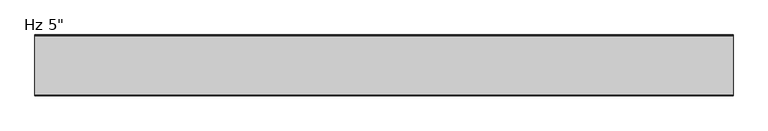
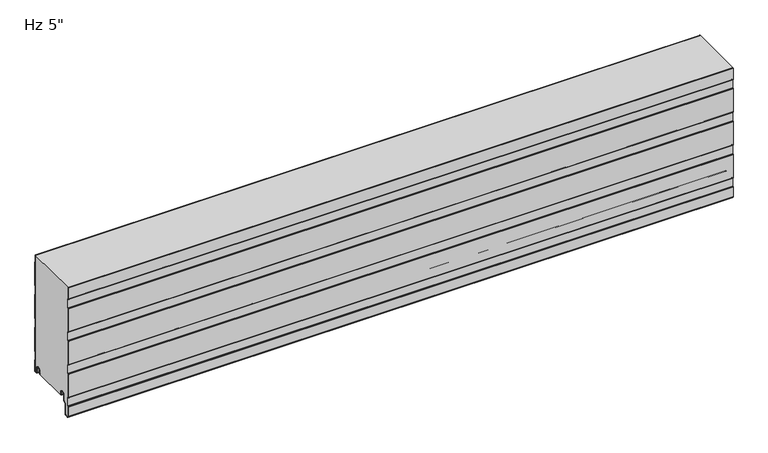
"""IFC4 building model written with IfcOpenShell, lengths in millimetres: plate geometry."""

from ifc_helpers import new_model, si_unit, point, frame, frame_2d, origin, place, context, project, spatial, polyline, circle_curve, trimmed, segment, composite_curve, outline, extrude, source, transform, mapped, element, save
from ifc_brep_helpers import plane_surface, cylinder_surface, revolved_surface, advanced_brep


def plate_239a66b7(model_context):
    return source(origin(), model_context, "Body", "SolidModel", [
        advanced_brep(
        [(-730.0, -17.0015159, 2.0313088), (-730.0, -18.0015191, 1.0313116), (-730.0, -19.0015105, 2.0313088), (-730.0, -19.0015105, 6.0315125), (-730.0, -18.0015159, 6.0315125), (-730.0, -18.0015159, 8.7237223), (-730.0, -14.7015202, 12.023718), (-730.0, -10.301529, 12.023718), (-730.0, -7.0015335, 8.7237225), (-730.0, -7.0015335, -1.6962564), (-730.0, -5.2315393, -3.4662506), (-730.0, -0.9999916, -3.4662506), (-730.0, -0.9999916, 21.034026), (-730.0, -2.2002307, 22.4196686), (-730.0, -2.2002307, 41.7948349), (-730.0, -1.0, 43.1804679), (-730.0, -1.0, 97.2338833), (-730.0, -2.2002307, 98.6195162), (-730.0, -2.2002307, 117.9946825), (-730.0, -1.0, 119.3803155), (-730.0, -1.0, 173.4337309), (-730.0, -2.2002307, 174.8193638), (-730.0, -2.2002307, 194.1945301), (-730.0, -1.0, 195.5801631), (-730.0, -1.0, 249.6335785), (-730.0, -2.2002307, 251.0192114), (-730.0, -2.2002307, 266.4), (-730.0, -1.2002307, 266.4), (-730.0, -1.2002307, 251.3920919), (-730.0, -0.3417885, 250.4010442), (-730.0, 0.0, 249.4844273), (-730.0, 0.0, 195.7293142), (-730.0, -0.3417885, 194.8126973), (-730.0, -1.2002307, 193.8216497), (-730.0, -1.2002307, 175.1922443), (-730.0, -0.3417885, 174.2011966), (-730.0, 0.0, 173.2845797), (-730.0, 0.0, 119.5294666), (-730.0, -0.3417885, 118.6128497), (-730.0, -1.2002307, 117.6218021), (-730.0, -1.2002307, 98.9923967), (-730.0, -0.3417885, 98.001349), (-730.0, 0.0, 97.0847321), (-730.0, 0.0, 43.329619), (-730.0, -0.3417885, 42.4130021), (-730.0, -1.2002307, 41.4219545), (-730.0, -1.2002307, 22.7925491), (-730.0, -0.3417885, 21.8015014), (-730.0, 0.0, 20.8847931), (-730.0, 8.4e-06, -3.0662545), (-730.0, -1.3999878, -4.4662506), (-730.0, -5.2315393, -4.4662506), (-730.0, -8.0015335, -1.6962564), (-730.0, -8.0015335, 8.7237225), (-730.0, -10.301529, 11.023718), (-730.0, -14.7015202, 11.023718), (-730.0, -17.0015159, 8.7237223), (730.0, -17.0015159, 2.0313088), (730.0, -17.0015159, 8.7237223), (730.0, -14.7015202, 11.023718), (730.0, -10.301529, 11.023718), (730.0, -8.0015335, 8.7237225), (730.0, -8.0015335, -1.6962564), (730.0, -5.2315393, -4.4662506), (730.0, -1.3999878, -4.4662506), (730.0, 8.4e-06, -3.0662545), (730.0, 8.4e-06, 20.8848845), (730.0, -0.3417885, 21.8015014), (730.0, -1.2002307, 22.7925491), (730.0, -1.2002307, 41.4219545), (730.0, -0.3417885, 42.4130021), (730.0, 0.0, 43.329619), (730.0, 0.0, 97.0847321), (730.0, -0.3417885, 98.001349), (730.0, -1.2002307, 98.9923967), (730.0, -1.2002307, 117.6218021), (730.0, -0.3417885, 118.6128497), (730.0, 0.0, 119.5294666), (730.0, 0.0, 173.2845797), (730.0, -0.3417885, 174.2011966), (730.0, -1.2002307, 175.1922443), (730.0, -1.2002307, 193.8216497), (730.0, -0.3417885, 194.8126973), (730.0, 0.0, 195.7293142), (730.0, 0.0, 249.4844273), (730.0, -0.3417885, 250.4010442), (730.0, -1.2002307, 251.3920919), (730.0, -1.2002307, 266.4), (730.0, -2.2002307, 266.4), (730.0, -2.2002307, 251.0192114), (730.0, -1.0, 249.6335785), (730.0, -1.0, 195.5801631), (730.0, -2.2002307, 194.1945301), (730.0, -2.2002307, 174.8193638), (730.0, -1.0, 173.4337309), (730.0, -1.0, 119.3803155), (730.0, -2.2002307, 117.9946825), (730.0, -2.2002307, 98.6195162), (730.0, -1.0, 97.2338833), (730.0, -1.0, 43.1804679), (730.0, -2.2002307, 41.7948349), (730.0, -2.2002307, 22.4196686), (730.0, -0.9999916, 21.034026), (730.0, -0.9999916, -3.4662506), (730.0, -5.2315393, -3.4662506), (730.0, -7.0015335, -1.6962564), (730.0, -7.0015335, 8.7237225), (730.0, -10.301529, 12.023718), (730.0, -14.7015202, 12.023718), (730.0, -18.0015159, 8.7237223), (730.0, -18.0015159, 6.0315125), (730.0, -19.0015105, 6.0315125), (730.0, -19.0015105, 2.0313088), (730.0, -18.0015192, 1.0313116)],
        [
            (0, 1, circle_curve(frame((-730.0, -18.0015132, 2.0313088), z_axis=(-1.0, 0.0, 0.0), x_axis=(0.0, 0.0, 1.0)), 0.9999973)),
            (1, 2, circle_curve(frame((-730.0, -18.0015133, 2.0313088), z_axis=(-1.0, 0.0, 0.0), x_axis=(0.0, 0.0, 1.0)), 0.9999972)),
            (2, 3),
            (3, 4),
            (4, 5),
            (5, 6, circle_curve(frame((-730.0, -14.7015202, 8.7237223), z_axis=(-1.0, 0.0, 0.0), x_axis=(0.0, 0.0, 1.0)), 3.2999957)),
            (6, 7),
            (7, 8, circle_curve(frame((-730.0, -10.301529, 8.7237225), z_axis=(-1.0, 0.0, 0.0), x_axis=(0.0, 0.0, 1.0)), 3.2999955)),
            (8, 9),
            (9, 10, circle_curve(frame((-730.0, -5.2315393, -1.6962564), z_axis=(1.0, 0.0, 0.0), x_axis=(0.0, 0.0, 1.0)), 1.7699942)),
            (10, 11),
            (11, 12),
            (12, 13),
            (13, 14),
            (14, 15),
            (15, 16),
            (16, 17),
            (17, 18),
            (18, 19),
            (19, 20),
            (20, 21),
            (21, 22),
            (22, 23),
            (23, 24),
            (24, 25),
            (25, 26),
            (26, 27),
            (27, 28),
            (28, 29),
            (29, 30, circle_curve(frame((-730.0, -1.3999972, 249.4844273), z_axis=(-1.0, 0.0, 0.0), x_axis=(0.0, 0.0, 1.0)), 1.3999972)),
            (30, 31),
            (31, 32, circle_curve(frame((-730.0, -1.3999972, 195.7293142), z_axis=(-1.0, 0.0, 0.0), x_axis=(0.0, 0.0, 1.0)), 1.3999972)),
            (32, 33),
            (33, 34),
            (34, 35),
            (35, 36, circle_curve(frame((-730.0, -1.3999972, 173.2845797), z_axis=(-1.0, 0.0, 0.0), x_axis=(0.0, 0.0, 1.0)), 1.3999972)),
            (36, 37),
            (37, 38, circle_curve(frame((-730.0, -1.3999972, 119.5294666), z_axis=(-1.0, 0.0, 0.0), x_axis=(0.0, 0.0, 1.0)), 1.3999972)),
            (38, 39),
            (39, 40),
            (40, 41),
            (41, 42, circle_curve(frame((-730.0, -1.3999972, 97.0847321), z_axis=(-1.0, 0.0, 0.0), x_axis=(0.0, 0.0, 1.0)), 1.3999972)),
            (42, 43),
            (43, 44, circle_curve(frame((-730.0, -1.3999972, 43.329619), z_axis=(-1.0, 0.0, 0.0), x_axis=(0.0, 0.0, 1.0)), 1.3999972)),
            (44, 45),
            (45, 46),
            (46, 47),
            (47, 48, circle_curve(frame((-730.0, -1.3999972, 20.8848845), z_axis=(-1.0, 0.0, 0.0), x_axis=(0.0, 0.0, 1.0)), 1.3999972)),
            (48, 49),
            (49, 50, circle_curve(frame((-730.0, -1.3999878, -3.0662545), z_axis=(-1.0, 0.0, 0.0), x_axis=(0.0, 0.0, 1.0)), 1.3999962)),
            (50, 51),
            (51, 52, circle_curve(frame((-730.0, -5.2315393, -1.6962564), z_axis=(-1.0, 0.0, 0.0), x_axis=(0.0, 0.0, 1.0)), 2.7699942)),
            (52, 53),
            (53, 54, circle_curve(frame((-730.0, -10.301529, 8.7237225), z_axis=(1.0, 0.0, 0.0), x_axis=(0.0, 0.0, 1.0)), 2.2999955)),
            (54, 55),
            (55, 56, circle_curve(frame((-730.0, -14.7015202, 8.7237223), z_axis=(1.0, 0.0, 0.0), x_axis=(0.0, 0.0, 1.0)), 2.2999957)),
            (56, 0),
            (57, 58),
            (58, 59, circle_curve(frame((730.0, -14.7015202, 8.7237223), z_axis=(-1.0, 0.0, 0.0), x_axis=(0.0, 0.0, 1.0)), 2.2999957)),
            (59, 60),
            (60, 61, circle_curve(frame((730.0, -10.301529, 8.7237225), z_axis=(-1.0, 0.0, 0.0), x_axis=(0.0, 0.0, 1.0)), 2.2999955)),
            (61, 62),
            (62, 63, circle_curve(frame((730.0, -5.2315393, -1.6962564), z_axis=(1.0, 0.0, 0.0), x_axis=(0.0, 0.0, 1.0)), 2.7699942)),
            (63, 64),
            (64, 65, circle_curve(frame((730.0, -1.3999878, -3.0662545), z_axis=(1.0, 0.0, 0.0), x_axis=(0.0, 0.0, 1.0)), 1.3999962)),
            (65, 66),
            (66, 67, circle_curve(frame((730.0, -1.3999972, 20.8848845), z_axis=(1.0, 0.0, 0.0), x_axis=(0.0, 0.0, 1.0)), 1.3999972)),
            (67, 68),
            (68, 69),
            (69, 70),
            (70, 71, circle_curve(frame((730.0, -1.3999972, 43.329619), z_axis=(1.0, 0.0, 0.0), x_axis=(0.0, 0.0, 1.0)), 1.3999972)),
            (71, 72),
            (72, 73, circle_curve(frame((730.0, -1.3999972, 97.0847321), z_axis=(1.0, 0.0, 0.0), x_axis=(0.0, 0.0, 1.0)), 1.3999972)),
            (73, 74),
            (74, 75),
            (75, 76),
            (76, 77, circle_curve(frame((730.0, -1.3999972, 119.5294666), z_axis=(1.0, 0.0, 0.0), x_axis=(0.0, 0.0, 1.0)), 1.3999972)),
            (77, 78),
            (78, 79, circle_curve(frame((730.0, -1.3999972, 173.2845797), z_axis=(1.0, 0.0, 0.0), x_axis=(0.0, 0.0, 1.0)), 1.3999972)),
            (79, 80),
            (80, 81),
            (81, 82),
            (82, 83, circle_curve(frame((730.0, -1.3999972, 195.7293142), z_axis=(1.0, 0.0, 0.0), x_axis=(0.0, 0.0, 1.0)), 1.3999972)),
            (83, 84),
            (84, 85, circle_curve(frame((730.0, -1.3999972, 249.4844273), z_axis=(1.0, 0.0, 0.0), x_axis=(0.0, 0.0, 1.0)), 1.3999972)),
            (85, 86),
            (86, 87),
            (87, 88),
            (88, 89),
            (89, 90),
            (90, 91),
            (91, 92),
            (92, 93),
            (93, 94),
            (94, 95),
            (95, 96),
            (96, 97),
            (97, 98),
            (98, 99),
            (99, 100),
            (100, 101),
            (101, 102),
            (102, 103),
            (103, 104),
            (104, 105, circle_curve(frame((730.0, -5.2315393, -1.6962564), z_axis=(-1.0, 0.0, 0.0), x_axis=(0.0, 0.0, 1.0)), 1.7699942)),
            (105, 106),
            (106, 107, circle_curve(frame((730.0, -10.301529, 8.7237225), z_axis=(1.0, 0.0, 0.0), x_axis=(0.0, 0.0, 1.0)), 3.2999955)),
            (107, 108),
            (108, 109, circle_curve(frame((730.0, -14.7015202, 8.7237223), z_axis=(1.0, 0.0, 0.0), x_axis=(0.0, 0.0, 1.0)), 3.2999957)),
            (109, 110),
            (110, 111),
            (111, 112),
            (112, 113, circle_curve(frame((730.0, -18.0015133, 2.0313088), z_axis=(1.0, 0.0, 0.0), x_axis=(0.0, 0.0, 1.0)), 0.9999972)),
            (113, 57, circle_curve(frame((730.0, -18.0015132, 2.0313088), z_axis=(1.0, 0.0, 0.0), x_axis=(0.0, 0.0, 1.0)), 0.9999973)),
            (26, 88),
            (87, 27),
            (56, 58),
            (57, 0),
            (55, 59),
            (54, 60),
            (53, 61),
            (52, 62),
            (51, 63),
            (50, 64),
            (49, 65),
            (48, 66),
            (47, 67),
            (46, 68),
            (45, 69),
            (44, 70),
            (43, 71),
            (42, 72),
            (41, 73),
            (40, 74),
            (39, 75),
            (38, 76),
            (37, 77),
            (36, 78),
            (19, 95),
            (94, 20),
            (18, 96),
            (17, 97),
            (16, 98),
            (15, 99),
            (14, 100),
            (13, 101),
            (12, 102),
            (11, 103),
            (10, 104),
            (9, 105),
            (8, 106),
            (7, 107),
            (6, 108),
            (5, 109),
            (4, 110),
            (3, 111),
            (2, 112),
            (1, 113),
            (35, 79),
            (34, 80),
            (33, 81),
            (32, 82),
            (31, 83),
            (30, 84),
            (29, 85),
            (28, 86),
            (25, 89),
            (24, 90),
            (23, 91),
            (22, 92),
            (21, 93),
        ],
        [
            plane_surface(frame((-730.0, 0.0, 533.4), z_axis=(-1.0, 0.0, 0.0), x_axis=(0.0, 1.0, 0.0))),
            plane_surface(frame((730.0, 0.0, 533.4), z_axis=(1.0, 0.0, 0.0), x_axis=(0.0, 1.0, 0.0))),
            plane_surface(frame((730.0, 10.0, 266.4), z_axis=(0.0, 0.0, 1.0), x_axis=(-1.0, 0.0, 0.0))),
            plane_surface(frame((-730.0, -17.0015159, 2.0313088), z_axis=(0.0, 1.0, 0.0), x_axis=(1.0, 0.0, 0.0))),
            revolved_surface(polyline([(730.0, -14.7015202, 11.023718), (-730.0, -14.7015202, 11.023718)]), (-730.0, -14.7015202, 8.7237223), (1.0, 0.0, 0.0)),
            plane_surface(frame((-730.0, -14.7015202, 11.023718), z_axis=(0.0, 0.0, -1.0), x_axis=(1.0, 0.0, 0.0))),
            revolved_surface(polyline([(730.0, -10.301529, 11.023717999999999), (-730.0, -10.301529, 11.023717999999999)]), (-730.0, -10.301529, 8.7237225), (1.0, 0.0, 0.0)),
            plane_surface(frame((-730.0, -8.0015335, 8.7237225), z_axis=(0.0, -1.0, 0.0), x_axis=(1.0, 0.0, 0.0))),
            cylinder_surface(frame((-730.0, -5.2315393, -1.6962564), z_axis=(-1.0, 0.0, 0.0), x_axis=(0.0, 0.0, 1.0)), 2.7699942),
            plane_surface(frame((-730.0, -5.2315393, -4.4662506), z_axis=(0.0, 0.0, -1.0), x_axis=(1.0, 0.0, 0.0))),
            cylinder_surface(frame((-730.0, -1.3999878, -3.0662545), z_axis=(-1.0, 0.0, 0.0), x_axis=(0.0, 0.0, 1.0)), 1.3999962),
            plane_surface(frame((-730.0, 8.4e-06, -3.0662545), z_axis=(0.0, 1.0, 0.0), x_axis=(1.0, 0.0, 0.0))),
            cylinder_surface(frame((-730.0, -1.3999972, 20.8848845), z_axis=(-1.0, 0.0, 0.0), x_axis=(0.0, 0.0, 1.0)), 1.3999972),
            plane_surface(frame((-730.0, -0.3417885, 21.8015014), z_axis=(0.0, 0.755864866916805, 0.6547276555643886), x_axis=(1.0, 0.0, 0.0))),
            plane_surface(frame((-730.0, -1.2002307, 32.1072518), z_axis=(0.0, 1.0, 0.0), x_axis=(1.0, 0.0, 0.0))),
            plane_surface(frame((-730.0, -1.2002307, 41.4219545), z_axis=(0.0, 0.755864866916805, -0.6547276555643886), x_axis=(1.0, 0.0, 0.0))),
            cylinder_surface(frame((-730.0, -1.3999972, 43.329619), z_axis=(-1.0, 0.0, 0.0), x_axis=(0.0, 0.0, 1.0)), 1.3999972),
            plane_surface(frame((-730.0, 0.0, 43.329619), z_axis=(0.0, 1.0, 0.0), x_axis=(1.0, 0.0, 0.0))),
            cylinder_surface(frame((-730.0, -1.3999972, 97.0847321), z_axis=(-1.0, 0.0, 0.0), x_axis=(0.0, 0.0, 1.0)), 1.3999972),
            plane_surface(frame((-730.0, -0.3417885, 98.001349), z_axis=(0.0, 0.755864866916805, 0.6547276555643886), x_axis=(1.0, 0.0, 0.0))),
            plane_surface(frame((-730.0, -1.2002307, 108.3070994), z_axis=(0.0, 1.0, 0.0), x_axis=(1.0, 0.0, 0.0))),
            plane_surface(frame((-730.0, -1.2002307, 117.6218021), z_axis=(0.0, 0.755864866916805, -0.6547276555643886), x_axis=(1.0, 0.0, 0.0))),
            cylinder_surface(frame((-730.0, -1.3999972, 119.5294666), z_axis=(-1.0, 0.0, 0.0), x_axis=(0.0, 0.0, 1.0)), 1.3999972),
            plane_surface(frame((-730.0, 0.0, 119.5294666), z_axis=(0.0, 1.0, 0.0), x_axis=(1.0, 0.0, 0.0))),
            plane_surface(frame((-730.0, -1.0, 173.4337309), z_axis=(0.0, -1.0, 0.0), x_axis=(1.0, 0.0, 0.0))),
            plane_surface(frame((-730.0, -1.0, 119.3803155), z_axis=(0.0, -0.755864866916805, 0.6547276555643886), x_axis=(1.0, 0.0, 0.0))),
            plane_surface(frame((-730.0, -2.2002307, 117.9946825), z_axis=(0.0, -1.0, 0.0), x_axis=(1.0, 0.0, 0.0))),
            plane_surface(frame((-730.0, -2.2002307, 98.6195162), z_axis=(0.0, -0.755864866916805, -0.6547276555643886), x_axis=(1.0, 0.0, 0.0))),
            plane_surface(frame((-730.0, -1.0, 97.2338833), z_axis=(0.0, -1.0, 0.0), x_axis=(1.0, 0.0, 0.0))),
            plane_surface(frame((-730.0, -1.0, 43.1804679), z_axis=(0.0, -0.755864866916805, 0.6547276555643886), x_axis=(1.0, 0.0, 0.0))),
            plane_surface(frame((-730.0, -2.2002307, 41.7948349), z_axis=(0.0, -1.0, 0.0), x_axis=(1.0, 0.0, 0.0))),
            plane_surface(frame((-730.0, -2.2002307, 22.4196686), z_axis=(0.0, -0.755864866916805, -0.6547276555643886), x_axis=(1.0, 0.0, 0.0))),
            plane_surface(frame((-730.0, -0.9999916, 21.034026), z_axis=(0.0, -1.0, 0.0), x_axis=(1.0, 0.0, 0.0))),
            plane_surface(frame((-730.0, -0.9999916, -3.4662506), z_axis=(0.0, 0.0, 1.0), x_axis=(1.0, 0.0, 0.0))),
            revolved_surface(polyline([(730.0, -5.2315393, 0.07373779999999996), (-730.0, -5.2315393, 0.07373779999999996)]), (-730.0, -5.2315393, -1.6962564), (1.0, 0.0, 0.0)),
            plane_surface(frame((-730.0, -7.0015335, -1.6962564), z_axis=(0.0, 1.0, 0.0), x_axis=(1.0, 0.0, 0.0))),
            cylinder_surface(frame((-730.0, -10.301529, 8.7237225), z_axis=(-1.0, 0.0, 0.0), x_axis=(0.0, 0.0, 1.0)), 3.2999955),
            plane_surface(frame((-730.0, -10.301529, 12.023718), z_axis=(0.0, 0.0, 1.0), x_axis=(1.0, 0.0, 0.0))),
            cylinder_surface(frame((-730.0, -14.7015202, 8.7237223), z_axis=(-1.0, 0.0, 0.0), x_axis=(0.0, 0.0, 1.0)), 3.2999957),
            plane_surface(frame((-730.0, -18.0015159, 8.7237223), z_axis=(0.0, -1.0, 0.0), x_axis=(1.0, 0.0, 0.0))),
            plane_surface(frame((-730.0, -18.0015159, 6.0315125), z_axis=(0.0, 0.0, 1.0), x_axis=(1.0, 0.0, 0.0))),
            plane_surface(frame((-730.0, -19.0015105, 6.0315125), z_axis=(0.0, -1.0, 0.0), x_axis=(1.0, 0.0, 0.0))),
            cylinder_surface(frame((-730.0, -18.0015133, 2.0313088), z_axis=(-1.0, 0.0, 0.0), x_axis=(0.0, 0.0, 1.0)), 0.9999972),
            cylinder_surface(frame((-730.0, -18.0015132, 2.0313088), z_axis=(-1.0, 0.0, 0.0), x_axis=(0.0, 0.0, 1.0)), 0.9999973),
            cylinder_surface(frame((-730.0, -1.3999972, 173.2845797), z_axis=(-1.0, 0.0, 0.0), x_axis=(0.0, 0.0, 1.0)), 1.3999972),
            plane_surface(frame((-730.0, -0.3417885, 174.2011966), z_axis=(0.0, 0.755864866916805, 0.6547276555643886), x_axis=(1.0, 0.0, 0.0))),
            plane_surface(frame((-730.0, -1.2002307, 184.506947), z_axis=(0.0, 1.0, 0.0), x_axis=(1.0, 0.0, 0.0))),
            plane_surface(frame((-730.0, -1.2002307, 193.8216497), z_axis=(0.0, 0.755864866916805, -0.6547276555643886), x_axis=(1.0, 0.0, 0.0))),
            cylinder_surface(frame((-730.0, -1.3999972, 195.7293142), z_axis=(-1.0, 0.0, 0.0), x_axis=(0.0, 0.0, 1.0)), 1.3999972),
            plane_surface(frame((-730.0, 0.0, 195.7293142), z_axis=(0.0, 1.0, 0.0), x_axis=(1.0, 0.0, 0.0))),
            cylinder_surface(frame((-730.0, -1.3999972, 249.4844273), z_axis=(-1.0, 0.0, 0.0), x_axis=(0.0, 0.0, 1.0)), 1.3999972),
            plane_surface(frame((-730.0, -0.3417885, 250.4010442), z_axis=(0.0, 0.755864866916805, 0.6547276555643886), x_axis=(1.0, 0.0, 0.0))),
            plane_surface(frame((-730.0, -1.2002307, 260.7067946), z_axis=(0.0, 1.0, 0.0), x_axis=(1.0, 0.0, 0.0))),
            plane_surface(frame((-730.0, -2.2002307, 270.3943777), z_axis=(0.0, -1.0, 0.0), x_axis=(1.0, 0.0, 0.0))),
            plane_surface(frame((-730.0, -2.2002307, 251.0192114), z_axis=(0.0, -0.755864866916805, -0.6547276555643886), x_axis=(1.0, 0.0, 0.0))),
            plane_surface(frame((-730.0, -1.0, 249.6335785), z_axis=(0.0, -1.0, 0.0), x_axis=(1.0, 0.0, 0.0))),
            plane_surface(frame((-730.0, -1.0, 195.5801631), z_axis=(0.0, -0.755864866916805, 0.6547276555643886), x_axis=(1.0, 0.0, 0.0))),
            plane_surface(frame((-730.0, -2.2002307, 194.1945301), z_axis=(0.0, -1.0, 0.0), x_axis=(1.0, 0.0, 0.0))),
            plane_surface(frame((-730.0, -2.2002307, 174.8193638), z_axis=(0.0, -0.755864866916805, -0.6547276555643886), x_axis=(1.0, 0.0, 0.0))),
        ],
        [
            (0, [[1, 2, 3, 4, 5, 6, 7, 8, 9, 10, 11, 12, 13, 14, 15, 16, 17, 18, 19, 20, 21, 22, 23, 24, 25, 26, 27, 28, 29, 30, 31, 32, 33, 34, 35, 36, 37, 38, 39, 40, 41, 42, 43, 44, 45, 46, 47, 48, 49, 50, 51, 52, 53, 54, 55, 56, 57]]),
            (1, [[58, 59, 60, 61, 62, 63, 64, 65, 66, 67, 68, 69, 70, 71, 72, 73, 74, 75, 76, 77, 78, 79, 80, 81, 82, 83, 84, 85, 86, 87, 88, 89, 90, 91, 92, 93, 94, 95, 96, 97, 98, 99, 100, 101, 102, 103, 104, 105, 106, 107, 108, 109, 110, 111, 112, 113, 114]]),
            (2, [[115, -88, 116, -27]]),
            (3, [[117, -58, 118, -57]]),
            (4, [[119, -59, -117, -56]]),
            (5, [[120, -60, -119, -55]]),
            (6, [[121, -61, -120, -54]]),
            (7, [[122, -62, -121, -53]]),
            (8, [[123, -63, -122, -52]]),
            (9, [[124, -64, -123, -51]]),
            (10, [[125, -65, -124, -50]]),
            (11, [[126, -66, -125, -49]]),
            (12, [[127, -67, -126, -48]]),
            (13, [[128, -68, -127, -47]]),
            (14, [[129, -69, -128, -46]]),
            (15, [[130, -70, -129, -45]]),
            (16, [[131, -71, -130, -44]]),
            (17, [[132, -72, -131, -43]]),
            (18, [[133, -73, -132, -42]]),
            (19, [[134, -74, -133, -41]]),
            (20, [[135, -75, -134, -40]]),
            (21, [[136, -76, -135, -39]]),
            (22, [[137, -77, -136, -38]]),
            (23, [[138, -78, -137, -37]]),
            (24, [[139, -95, 140, -20]]),
            (25, [[141, -96, -139, -19]]),
            (26, [[142, -97, -141, -18]]),
            (27, [[143, -98, -142, -17]]),
            (28, [[144, -99, -143, -16]]),
            (29, [[145, -100, -144, -15]]),
            (30, [[146, -101, -145, -14]]),
            (31, [[147, -102, -146, -13]]),
            (32, [[148, -103, -147, -12]]),
            (33, [[149, -104, -148, -11]]),
            (34, [[150, -105, -149, -10]]),
            (35, [[151, -106, -150, -9]]),
            (36, [[152, -107, -151, -8]]),
            (37, [[153, -108, -152, -7]]),
            (38, [[154, -109, -153, -6]]),
            (39, [[155, -110, -154, -5]]),
            (40, [[156, -111, -155, -4]]),
            (41, [[157, -112, -156, -3]]),
            (42, [[158, -113, -157, -2]]),
            (43, [[-118, -114, -158, -1]]),
            (44, [[159, -79, -138, -36]]),
            (45, [[160, -80, -159, -35]]),
            (46, [[161, -81, -160, -34]]),
            (47, [[162, -82, -161, -33]]),
            (48, [[163, -83, -162, -32]]),
            (49, [[164, -84, -163, -31]]),
            (50, [[165, -85, -164, -30]]),
            (51, [[166, -86, -165, -29]]),
            (52, [[-28, -116, -87, -166]]),
            (53, [[-89, -115, -26, 167]]),
            (54, [[168, -90, -167, -25]]),
            (55, [[169, -91, -168, -24]]),
            (56, [[170, -92, -169, -23]]),
            (57, [[171, -93, -170, -22]]),
            (58, [[-140, -94, -171, -21]]),
        ],
    ),
        extrude(outline(composite_curve([segment(trimmed(circle_curve(frame_2d((-125.6007733, -10.6415934)), 1.3998661), [point((-127.0006394, -10.6415934))], [point((-126.5333971, -9.5976403))], False, "CARTESIAN"), True, "CONTINUOUS"), segment(polyline([(-126.5333971, -9.5976403), (-125.8006709, -8.8649141), (-125.8006709, 10.0260713), (-126.5336365, 10.7590369)]), True, "CONTINUOUS"), segment(trimmed(circle_curve(frame_2d((-125.6009253, 11.8030877)), 1.3999972), [point((-126.5336365, 10.7590369))], [point((-127.0009016, 11.810741))], False, "CARTESIAN"), True, "CONTINUOUS"), segment(polyline([(-127.0009016, 11.810741), (-127.0009016, 65.5582542)]), True, "CONTINUOUS"), segment(trimmed(circle_curve(frame_2d((-125.6009044, 65.5582542)), 1.3999972), [point((-127.0009016, 65.5582542))], [point((-126.5336156, 66.602305))], False, "CARTESIAN"), True, "CONTINUOUS"), segment(polyline([(-126.5336156, 66.602305), (-125.8006709, 67.3352497), (-125.8006709, 86.2259189), (-126.5336365, 86.9588845)]), True, "CONTINUOUS"), segment(trimmed(circle_curve(frame_2d((-125.6009253, 88.0029353)), 1.3999972), [point((-126.5336365, 86.9588845))], [point((-127.0009016, 88.0105886))], False, "CARTESIAN"), True, "CONTINUOUS"), segment(polyline([(-127.0009016, 88.0105886), (-127.0009016, 141.7581018)]), True, "CONTINUOUS"), segment(trimmed(circle_curve(frame_2d((-125.6009044, 141.7581018)), 1.3999972), [point((-127.0009016, 141.7581018))], [point((-126.5336156, 142.8021526))], False, "CARTESIAN"), True, "CONTINUOUS"), segment(polyline([(-126.5336156, 142.8021526), (-125.8006709, 143.5350973), (-125.8006709, 162.4257665), (-126.5336365, 163.1587321)]), True, "CONTINUOUS"), segment(trimmed(circle_curve(frame_2d((-125.6009253, 164.2027829)), 1.3999972), [point((-126.5336365, 163.1587321))], [point((-127.0009016, 164.2104362))], False, "CARTESIAN"), True, "CONTINUOUS"), segment(polyline([(-127.0009016, 164.2104362), (-127.0009016, 217.9579494)]), True, "CONTINUOUS"), segment(trimmed(circle_curve(frame_2d((-125.6009044, 217.9579494)), 1.3999972), [point((-127.0009016, 217.9579494))], [point((-126.5336156, 219.0020002))], False, "CARTESIAN"), True, "CONTINUOUS"), segment(polyline([(-126.5336156, 219.0020002), (-125.8006709, 219.7349449), (-125.8006709, 238.6256141), (-126.5336365, 239.3585797)]), True, "CONTINUOUS"), segment(trimmed(circle_curve(frame_2d((-125.6009253, 240.4026305)), 1.3999972), [point((-126.5336365, 239.3585797))], [point((-127.0009016, 240.4102838))], False, "CARTESIAN"), True, "CONTINUOUS"), segment(polyline([(-127.0009016, 240.4102838), (-127.0009016, 266.4), (-126.0009016, 266.4), (-126.0009016, 240.2405326), (-124.8006709, 239.0403019), (-124.8006709, 219.3208894), (-126.0009016, 218.1206587), (-126.0009016, 164.0405269), (-124.8006709, 162.8402962), (-124.8006709, 143.1208837), (-126.0009016, 141.920653), (-126.0009016, 87.8405213), (-124.8006709, 86.6402905), (-124.8006709, 66.920878), (-126.0009016, 65.7206473), (-126.0009016, 11.6405156), (-124.8006709, 10.4402849), (-124.8006709, -9.2791277), (-126.0006394, -10.4790962), (-126.0006394, -32.4521176)]), True, "CONTINUOUS"), segment(trimmed(circle_curve(frame_2d((-123.4304001, -32.4521176)), 2.5702393), [point((-126.0006394, -32.4521176))], [point((-123.2063145, -35.0125699))], True, "CARTESIAN"), True, "CONTINUOUS"), segment(polyline([(-123.2063145, -35.0125699), (-118.2244936, -34.5765709)]), True, "CONTINUOUS"), segment(trimmed(circle_curve(frame_2d((-118.7058842, -31.9198392)), 2.6999926), [point((-118.2244936, -34.5765709))], [point((-116.0058916, -31.9198392))], True, "CARTESIAN"), True, "CONTINUOUS"), segment(polyline([(-116.0058916, -31.9198392), (-116.0058916, -9.8247096), (-110.5038205, -4.3226385)]), True, "CONTINUOUS"), segment(trimmed(circle_curve(frame_2d((-111.7058982, -3.1205608)), 1.6999946), [point((-110.5038205, -4.3226385))], [point((-110.0059036, -3.1205608))], True, "CARTESIAN"), True, "CONTINUOUS"), segment(polyline([(-110.0059036, -3.1205608), (-110.0059036, 8.6903283)]), True, "CONTINUOUS"), segment(trimmed(circle_curve(frame_2d((-106.6559083, 8.6903283)), 3.3499953), [point((-110.0059036, 8.6903283))], [point((-106.6559083, 12.0403236))], False, "CARTESIAN"), True, "CONTINUOUS"), segment(polyline([(-106.6559083, 12.0403236), (-102.2559171, 12.0403236)]), True, "CONTINUOUS"), segment(trimmed(circle_curve(frame_2d((-102.2559171, 8.6903283)), 3.3499953), [point((-102.2559171, 12.0403236))], [point((-98.9059218, 8.6903283))], False, "CARTESIAN"), True, "CONTINUOUS"), segment(polyline([(-98.9059218, 8.6903283), (-98.9059218, 5.9912173), (-97.5074429, 5.9912173), (-97.5074429, 2.2328239)]), True, "CONTINUOUS"), segment(trimmed(circle_curve(frame_2d((-98.7074396, 2.2313092)), 1.1999976), [point((-97.5074429, 2.2328239))], [point((-98.6769177, 1.0316999))], False, "CARTESIAN"), True, "CONTINUOUS"), segment(trimmed(circle_curve(frame_2d((-98.7074396, 2.2313092)), 1.1999976), [point((-98.6769177, 1.0316999))], [point((-99.9059218, 2.1710221))], False, "CARTESIAN"), True, "CONTINUOUS"), segment(polyline([(-99.9059218, 2.1710221), (-99.9059218, 8.6903283)]), True, "CONTINUOUS"), segment(trimmed(circle_curve(frame_2d((-102.2559171, 8.6903283)), 2.3499953), [point((-99.9059218, 8.6903283))], [point((-102.2559171, 11.0403236))], True, "CARTESIAN"), True, "CONTINUOUS"), segment(polyline([(-102.2559171, 11.0403236), (-106.6559083, 11.0403236)]), True, "CONTINUOUS"), segment(trimmed(circle_curve(frame_2d((-106.6559083, 8.6903283)), 2.3499953), [point((-106.6559083, 11.0403236))], [point((-109.0059036, 8.6903283))], True, "CARTESIAN"), True, "CONTINUOUS"), segment(polyline([(-109.0059036, 8.6903283), (-109.0059036, -3.1205608)]), True, "CONTINUOUS"), segment(trimmed(circle_curve(frame_2d((-111.7058982, -3.1205608)), 2.6999946), [point((-109.0059036, -3.1205608))], [point((-109.7967137, -5.0297453))], False, "CARTESIAN"), True, "CONTINUOUS"), segment(polyline([(-109.7967137, -5.0297453), (-114.6251312, -9.8581627)]), True, "CONTINUOUS"), segment(trimmed(circle_curve(frame_2d((-113.7058942, -10.7773997)), 1.2999974), [point((-114.6251312, -9.8581627))], [point((-115.0058916, -10.7773997))], True, "CARTESIAN"), True, "CONTINUOUS"), segment(polyline([(-115.0058916, -10.7773997), (-115.0058916, -31.9198392)]), True, "CONTINUOUS"), segment(trimmed(circle_curve(frame_2d((-118.7058842, -31.9198392)), 3.6999926), [point((-115.0058916, -31.9198392))], [point((-118.0950831, -35.5690675))], False, "CARTESIAN"), True, "CONTINUOUS"), segment(polyline([(-118.0950831, -35.5690675), (-123.1191297, -36.008762)]), True, "CONTINUOUS"), segment(trimmed(circle_curve(frame_2d((-123.4304001, -32.4521176)), 3.5702393), [point((-123.1191297, -36.008762))], [point((-127.0006394, -32.4521176))], False, "CARTESIAN"), True, "CONTINUOUS"), segment(polyline([(-127.0006394, -32.4521176), (-127.0006394, -10.6415934)]), True, "CONTINUOUS")], self_intersect=False)), frame((-730.0, 0.0, 0.0), z_axis=(1.0, 0.0, 0.0), x_axis=(0.0, 1.0, 0.0)), (0.0, 0.0, 1.0), 1460.0),
        extrude(outline(composite_curve([segment(trimmed(circle_curve(frame_2d((-98.7013969, 2.2313092)), 1.1999976), [point((-98.670875, 1.0316999))], [point((-97.5014003, 2.2328239))], True, "CARTESIAN"), True, "CONTINUOUS"), segment(polyline([(-97.5014003, 2.2328239), (-97.5014003, 5.9912173), (-98.8998791, 5.9912173), (-98.8998791, 8.6903283)]), True, "CONTINUOUS"), segment(trimmed(circle_curve(frame_2d((-102.2498744, 8.6903283)), 3.3499953), [point((-98.8998791, 8.6903283))], [point((-102.2498744, 12.0403236))], True, "CARTESIAN"), True, "CONTINUOUS"), segment(polyline([(-102.2498744, 12.0403236), (-106.6498656, 12.0403236)]), True, "CONTINUOUS"), segment(trimmed(circle_curve(frame_2d((-106.6498656, 8.6903283)), 3.3499953), [point((-106.6498656, 12.0403236))], [point((-109.9998609, 8.6903283))], True, "CARTESIAN"), True, "CONTINUOUS"), segment(polyline([(-109.9998609, 8.6903283), (-109.9998609, -3.1205608)]), True, "CONTINUOUS"), segment(trimmed(circle_curve(frame_2d((-111.6998555, -3.1205608)), 1.6999946), [point((-109.9998609, -3.1205608))], [point((-110.4977778, -4.3226385))], False, "CARTESIAN"), True, "CONTINUOUS"), segment(polyline([(-110.4977778, -4.3226385), (-115.9998489, -9.8247096), (-115.9998489, -31.9198392)]), True, "CONTINUOUS"), segment(trimmed(circle_curve(frame_2d((-118.6998415, -31.9198392)), 2.6999926), [point((-115.9998489, -31.9198392))], [point((-118.2184509, -34.5765709))], False, "CARTESIAN"), True, "CONTINUOUS"), segment(polyline([(-118.2184509, -34.5765709), (-123.2002718, -35.0125699)]), True, "CONTINUOUS"), segment(trimmed(circle_curve(frame_2d((-123.4243575, -32.4521176)), 2.5702393), [point((-123.2002718, -35.0125699))], [point((-125.9945967, -32.4521176))], False, "CARTESIAN"), True, "CONTINUOUS"), segment(polyline([(-125.9945967, -32.4521176), (-125.9945967, -10.4790962), (-124.7946282, -9.2791277), (-124.7946282, 10.4402849), (-125.9948589, 11.6405156), (-125.9948589, 65.7206473), (-124.7946282, 66.920878), (-124.7946282, 86.6402905), (-125.9948589, 87.8405213), (-125.9948589, 141.920653), (-124.7946282, 143.1208837), (-124.7946282, 162.8402962), (-125.9948589, 164.0405269), (-125.9948589, 218.1206587), (-124.7946282, 219.3208894), (-124.7946282, 239.0403019), (-125.9948589, 240.2405326), (-125.9948589, 266.4), (-2.2002307, 266.4), (-2.2002307, 251.0192115), (-1.0, 249.6335785), (-1.0, 195.5801631), (-2.2002307, 194.1945302), (-2.2002307, 174.8193639), (-1.0, 173.4337309), (-1.0, 119.3803155), (-2.2002307, 117.9946826), (-2.2002307, 98.6195163), (-1.0, 97.2338833), (-1.0, 43.1804679), (-2.2002307, 41.794835), (-2.2002307, 22.4196687), (-0.9999916, 21.034026), (-0.9999916, -3.4662506), (-5.2315389, -3.4662506)]), True, "CONTINUOUS"), segment(trimmed(circle_curve(frame_2d((-5.2315389, -1.6962564)), 1.7699942), [point((-5.2315389, -3.4662506))], [point((-7.0015331, -1.6962564))], False, "CARTESIAN"), True, "CONTINUOUS"), segment(polyline([(-7.0015331, -1.6962564), (-7.0015331, 8.7237222)]), True, "CONTINUOUS"), segment(trimmed(circle_curve(frame_2d((-10.301529, 8.7237222)), 3.2999959), [point((-7.0015331, 8.7237222))], [point((-10.301529, 12.023718))], True, "CARTESIAN"), True, "CONTINUOUS"), segment(polyline([(-10.301529, 12.023718), (-14.7015202, 12.023718)]), True, "CONTINUOUS"), segment(trimmed(circle_curve(frame_2d((-14.7015202, 8.7237223)), 3.2999957), [point((-14.7015202, 12.023718))], [point((-18.0015159, 8.7237223))], True, "CARTESIAN"), True, "CONTINUOUS"), segment(polyline([(-18.0015159, 8.7237223), (-18.0015159, 6.0315125), (-19.0015105, 6.0315125), (-19.0015105, 2.0313089)]), True, "CONTINUOUS"), segment(trimmed(circle_curve(frame_2d((-18.0015133, 2.0313089)), 0.9999972), [point((-19.0015105, 2.0313089))], [point((-18.0015192, 1.0313117))], True, "CARTESIAN"), True, "CONTINUOUS"), segment(polyline([(-18.0015192, 1.0313117), (-19.0328308, 0.0), (-97.6391751, 0.0), (-98.670875, 1.0316999)]), True, "CONTINUOUS")], self_intersect=False)), frame((-730.0, 0.0, 0.0), z_axis=(1.0, 0.0, 0.0), x_axis=(0.0, 1.0, 0.0)), (0.0, 0.0, 1.0), 1460.0),
    ])


if __name__ == "__main__":
    model = new_model("IFC4")
    model_context = context("Model", 3, world=origin())
    ifc_project = project(units=[si_unit("LENGTHUNIT", "METRE", prefix="MILLI")], contexts=[model_context])
    site = spatial("IfcSite", under=ifc_project)
    building = spatial("IfcBuilding", under=site)
    placement = place(None, origin())
    plate_shape = plate_239a66b7(model_context)
    element("IfcPlate", 1, ObjectType="KIP-42-Karrier-KP-R19-CP-Hz-SL3-8in_SL : Hz 5\"", at=placement, inside=building, context=model_context, shape_type="MappedRepresentation", body=[
        mapped(plate_shape, transform((0.0, 0.0, 0.0), x_axis=(1.0, 0.0, 0.0), y_axis=(0.0, 1.0, 0.0), z_axis=(0.0, 0.0, 1.0))),
    ])
    save(model, "model.ifc")
